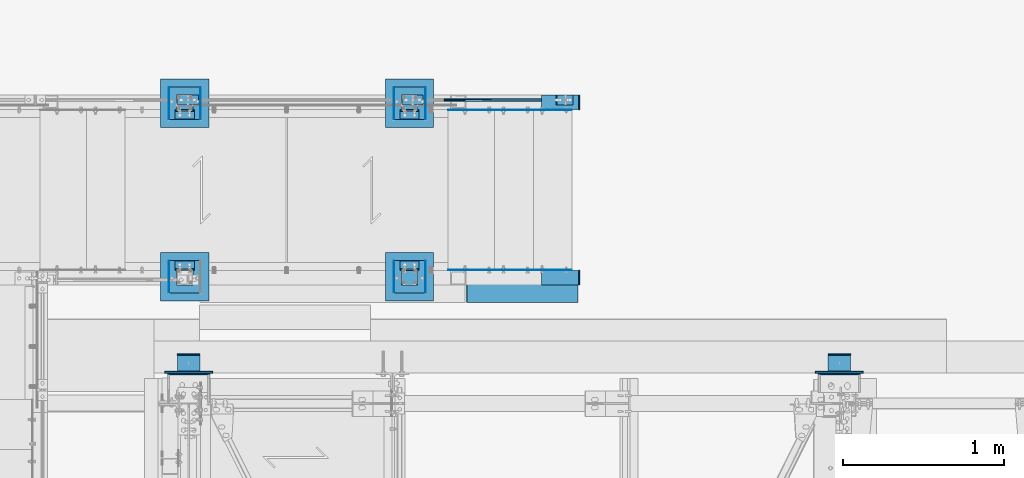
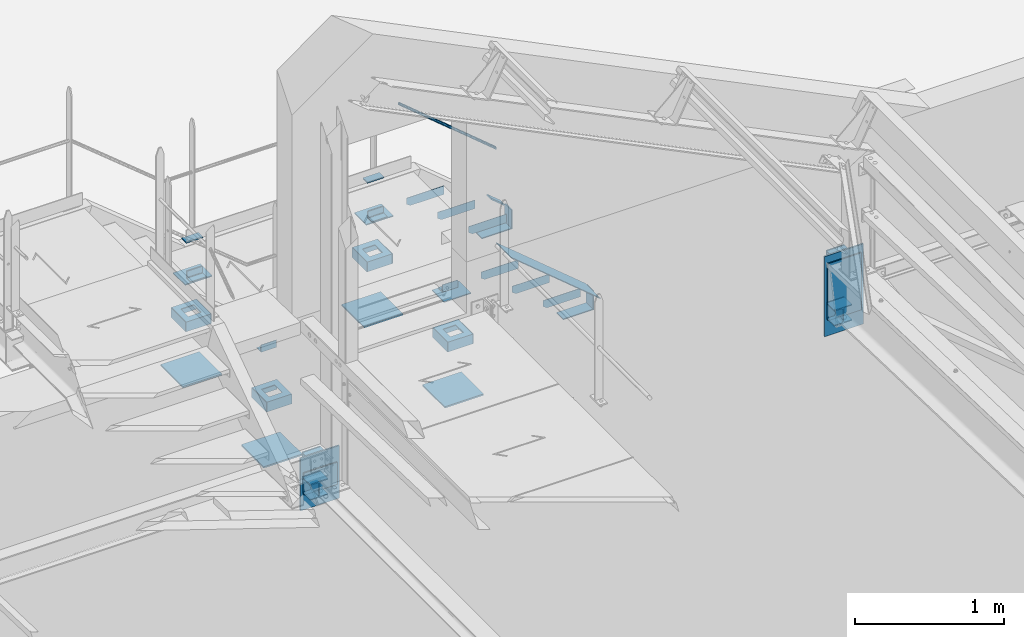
# One storey, part 115 of 362: 46 beams, 3 members, 19 elements without a shape of their own.
"""IFC2X3 building model written with IfcOpenShell, lengths in millimetres."""

from ifc_helpers import new_model, si_unit, frame, origin_with_axes, origin_2d_with_axis, place, context, subcontext, project, spatial, polyline, rectangle, hollow_circle, i_section, l_section, u_section, outline, extrude, boolean, clip, halfspace, material, type_object, element, aggregate, save


model = new_model("IFC2X3")

# Units and contexts
model_context = context("Model", 3, precision=1e-05, world=origin_with_axes())
body_context = subcontext(model_context, "Body", "Model", "MODEL_VIEW")
ifc_project = project(units=[si_unit("LENGTHUNIT", "METRE", prefix="MILLI"), si_unit("AREAUNIT", "SQUARE_METRE"), si_unit("VOLUMEUNIT", "CUBIC_METRE"), si_unit("MASSUNIT", "GRAM", prefix="KILO"), si_unit("TIMEUNIT", "SECOND"), si_unit("PLANEANGLEUNIT", "RADIAN"), si_unit("SOLIDANGLEUNIT", "STERADIAN"), si_unit("THERMODYNAMICTEMPERATUREUNIT", "DEGREE_CELSIUS"), si_unit("LUMINOUSINTENSITYUNIT", "LUMEN")], contexts=[model_context])

# Site, building, storey
site_placement = place(None, origin_with_axes())
site = spatial("IfcSite", under=ifc_project, at=site_placement, Name="Undefined", CompositionType="ELEMENT")
building_placement = place(site_placement, origin_with_axes())
building = spatial("IfcBuilding", under=site, at=building_placement, Name="Undefined", CompositionType="ELEMENT")
storey_placement = place(building_placement, origin_with_axes())
storey = spatial("IfcBuildingStorey", under=building, at=storey_placement, Name="Undefined", CompositionType="ELEMENT", Elevation=0.0)

# Assembly, member
assembly_1_placement = place(storey_placement, origin_with_axes())
assembly_1 = element("IfcElementAssembly", 1, at=assembly_1_placement, inside=storey, Name="CACHE VIDE", AssemblyPlace="NOTDEFINED", PredefinedType="NOTDEFINED")
ifc_material_1 = material(Name="Undefined/S235-E24")
member_type_1 = type_object("IfcMemberType", Name="PL200*6", PredefinedType="NOTDEFINED")
member_1_placement = place(assembly_1_placement, frame((36702.1608014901, 15929.9998774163, 7532.9377228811), z_axis=(0.0, -1.0, 0.0), x_axis=(-0.768221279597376, 0.0, 0.640184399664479)))
member_1 = element("IfcMember", 2, at=member_1_placement, type_object=member_type_1, material=ifc_material_1, Name="CACHE VIDE", ObjectType="PL200*6", context=body_context, shape_type="SweptSolid", body=[
    extrude(rectangle(XDim=6.0, YDim=200.0, at=origin_2d_with_axis()), frame((900.000000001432, 9.99200722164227e-14, 0.0), z_axis=(-1.0, 0.0, 0.0), x_axis=(0.0, -1.0, 0.0)), (0.0, 0.0, 1.0), 900.0),
])
aggregate(assembly_1, [member_1])

# Assembly, beams, member
assembly_2_placement = place(storey_placement, origin_with_axes())
assembly_2 = element("IfcElementAssembly", 3, at=assembly_2_placement, inside=storey, Name="MAIN COURANTE", AssemblyPlace="NOTDEFINED", PredefinedType="NOTDEFINED")
beam_type_1 = type_object("IfcBeamType", Name="PL10*60", PredefinedType="NOTDEFINED")
beam_1_placement = place(assembly_2_placement, frame((35740.0061849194, 17089.9938659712, 8114.9999407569), z_axis=(0.0, 1.0, 0.0), x_axis=(-1.0, 0.0, 0.0)))
beam_1 = element("IfcBeam", 4, at=beam_1_placement, type_object=beam_type_1, material=ifc_material_1, Name="PLATINE", ObjectType="PL10*60", context=body_context, shape_type="SweptSolid", body=[
    extrude(rectangle(XDim=10.0, YDim=60.0, at=origin_2d_with_axis()), frame((130.0, 0.0, 0.0), z_axis=(-1.0, 0.0, 0.0), x_axis=(0.0, -1.0, 0.0)), (0.0, 0.0, 1.0), 130.0),
])
beam_2_placement = place(assembly_2_placement, frame((34340.0061849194, 17089.9938659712, 8114.9999407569), z_axis=(0.0, 1.0, 0.0), x_axis=(-1.0, 0.0, 0.0)))
beam_2 = element("IfcBeam", 5, at=beam_2_placement, type_object=beam_type_1, material=ifc_material_1, Name="PLATINE", ObjectType="PL10*60", context=body_context, shape_type="SweptSolid", body=[
    extrude(rectangle(XDim=10.0, YDim=60.0, at=origin_2d_with_axis()), frame((130.0, 0.0, 0.0), z_axis=(-1.0, 0.0, 0.0), x_axis=(0.0, -1.0, 0.0)), (0.0, 0.0, 1.0), 130.0),
])
member_type_2 = type_object("IfcMemberType", Name="TUBE-21.3*2", PredefinedType="NOTDEFINED")
member_2_placement = place(assembly_2_placement, frame((36625.0061849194, 17089.9898795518, 8025.73196061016), z_axis=(0.0, -1.0, 0.0), x_axis=(-0.768221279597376, 0.0, 0.640184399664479)))
member_2 = element("IfcMember", 6, at=member_2_placement, type_object=member_type_2, material=ifc_material_1, Name="LISSE", ObjectType="TUBE-21.3*2", context=body_context, shape_type="Clipping", body=[
    clip(clip(extrude(hollow_circle(Radius=10.64999962, WallThickness=2.0, at=origin_2d_with_axis()), frame((999.915375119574, 0.0, 0.0), z_axis=(-1.0, 0.0, 0.0), x_axis=(0.0, -1.0, 0.0)), (0.0, 0.0, 1.0), 1012.25), halfspace(frame((981.073731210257, -1.82259100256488e-07, -0.0039864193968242), z_axis=(-0.940271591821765, -0.340425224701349, 0.0), x_axis=(0.0, 0.0, -1.0)), True)), halfspace(frame((18.5934348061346, -14.5018748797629, -0.0039864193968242), z_axis=(-0.768221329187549, -0.640184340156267, 0.0), x_axis=(0.0, 0.0, -1.0)), False)),
])

# Assembly, beam
assembly_3_placement = place(storey_placement, origin_with_axes())
assembly_3 = element("IfcElementAssembly", 7, at=assembly_3_placement, inside=storey, AssemblyPlace="NOTDEFINED", PredefinedType="NOTDEFINED")
beam_type_2 = type_object("IfcBeamType", Name="PL12*300", PredefinedType="NOTDEFINED")
beam_3_placement = place(assembly_3_placement, frame((34405.0000000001, 15839.9999136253, 7056.0), z_axis=(0.0, 0.0, -1.0), x_axis=(-1.0, 0.0, 0.0)))
beam_3 = element("IfcBeam", 8, at=beam_3_placement, type_object=beam_type_2, material=ifc_material_1, Name="PLATINE", ObjectType="PL12*300", context=body_context, shape_type="SweptSolid", body=[
    extrude(outline(polyline([(0.0, 0.0), (300.0, 0.0), (300.0, 300.0), (0.0, 300.0), (0.0, 0.0)])), frame((0.0, 0.0, -6.0), z_axis=(0.0, 0.0, 1.0), x_axis=(1.0, 0.0, 0.0)), (0.0, 0.0, 1.0), 12.0),
])

assembly_4_placement = place(storey_placement, origin_with_axes())
assembly_4 = element("IfcElementAssembly", 9, at=assembly_4_placement, inside=storey, AssemblyPlace="NOTDEFINED", PredefinedType="NOTDEFINED")
beam_4_placement = place(assembly_4_placement, frame((35805.0000000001, 15839.9999136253, 7056.0), z_axis=(0.0, 0.0, -1.0), x_axis=(-1.0, 0.0, 0.0)))
beam_4 = element("IfcBeam", 10, at=beam_4_placement, type_object=beam_type_2, material=ifc_material_1, Name="PLATINE", ObjectType="PL12*300", context=body_context, shape_type="SweptSolid", body=[
    extrude(outline(polyline([(0.0, 0.0), (300.0, 0.0), (300.0, 300.0), (0.0, 300.0), (0.0, 0.0)])), frame((0.0, 0.0, -6.0), z_axis=(0.0, 0.0, 1.0), x_axis=(1.0, 0.0, 0.0)), (0.0, 0.0, 1.0), 12.0),
])

assembly_5_placement = place(storey_placement, origin_with_axes())
assembly_5 = element("IfcElementAssembly", 11, at=assembly_5_placement, inside=storey, AssemblyPlace="NOTDEFINED", PredefinedType="NOTDEFINED")
beam_5_placement = place(assembly_5_placement, frame((34405.0000000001, 17219.9996684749, 7056.0), z_axis=(0.0, 0.0, 1.0), x_axis=(-1.0, 0.0, 0.0)))
beam_5 = element("IfcBeam", 12, at=beam_5_placement, type_object=beam_type_2, material=ifc_material_1, Name="PLATINE", ObjectType="PL12*300", context=body_context, shape_type="SweptSolid", body=[
    extrude(outline(polyline([(0.0, 0.0), (300.0, 0.0), (300.0, 300.0), (0.0, 300.0), (0.0, 0.0)])), frame((0.0, 0.0, -6.0), z_axis=(0.0, 0.0, 1.0), x_axis=(1.0, 0.0, 0.0)), (0.0, 0.0, 1.0), 12.0),
])

assembly_6_placement = place(storey_placement, origin_with_axes())
assembly_6 = element("IfcElementAssembly", 13, at=assembly_6_placement, inside=storey, AssemblyPlace="NOTDEFINED", PredefinedType="NOTDEFINED")
beam_6_placement = place(assembly_6_placement, frame((35805.0000000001, 17219.9996684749, 7056.0), z_axis=(0.0, 0.0, 1.0), x_axis=(-1.0, 0.0, 0.0)))
beam_6 = element("IfcBeam", 14, at=beam_6_placement, type_object=beam_type_2, material=ifc_material_1, Name="PLATINE", ObjectType="PL12*300", context=body_context, shape_type="SweptSolid", body=[
    extrude(outline(polyline([(0.0, 0.0), (300.0, 0.0), (300.0, 300.0), (0.0, 300.0), (0.0, 0.0)])), frame((0.0, 0.0, -6.0), z_axis=(0.0, 0.0, 1.0), x_axis=(1.0, 0.0, 0.0)), (0.0, 0.0, 1.0), 12.0),
])

assembly_7_placement = place(storey_placement, origin_with_axes())
assembly_7 = element("IfcElementAssembly", 15, at=assembly_7_placement, inside=storey, AssemblyPlace="NOTDEFINED", PredefinedType="NOTDEFINED")
beam_7_placement = place(assembly_7_placement, frame((34280.0000000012, 15395.9999999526, 7394.99830350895), z_axis=(-1.0, 0.0, 0.0), x_axis=(0.0, 0.0, -1.0)))
beam_7 = element("IfcBeam", 16, at=beam_7_placement, type_object=beam_type_2, material=ifc_material_1, Name="PRESCELLEMENT", ObjectType="PL12*300", context=body_context, shape_type="SweptSolid", body=[
    extrude(rectangle(XDim=12.0, YDim=300.0, at=origin_2d_with_axis()), frame((429.999999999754, 0.0, 0.0), z_axis=(-1.0, 0.0, 0.0), x_axis=(0.0, -1.0, 0.0)), (0.0, 0.0, 1.0), 430.0),
])

assembly_8_placement = place(storey_placement, origin_with_axes())
assembly_8 = element("IfcElementAssembly", 17, at=assembly_8_placement, inside=storey, AssemblyPlace="NOTDEFINED", PredefinedType="NOTDEFINED")
beam_8_placement = place(assembly_8_placement, frame((38330.0000000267, 15396.0000001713, 7624.99830350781), z_axis=(-1.0, 0.0, 0.0), x_axis=(0.0, 0.0, -1.0)))
beam_8 = element("IfcBeam", 18, at=beam_8_placement, type_object=beam_type_2, material=ifc_material_1, Name="PRESCELLEMENT", ObjectType="PL12*300", context=body_context, shape_type="SweptSolid", body=[
    extrude(rectangle(XDim=12.0, YDim=300.0, at=origin_2d_with_axis()), frame((654.999999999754, 0.0, 0.0), z_axis=(-1.0, 0.0, 0.0), x_axis=(0.0, -1.0, 0.0)), (0.0, 0.0, 1.0), 655.0),
])

# Member
member_type_3 = type_object("IfcMemberType", Name="PL10*60", PredefinedType="NOTDEFINED")
member_3_placement = place(assembly_2_placement, frame((36667.8985396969, 17089.9938659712, 7564.09302426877), z_axis=(0.0, 1.0, 0.0), x_axis=(-0.768221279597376, 0.0, 0.640184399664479)))
member_3 = element("IfcMember", 19, at=member_3_placement, type_object=member_type_3, material=ifc_material_1, Name="PLATINE", ObjectType="PL10*60", context=body_context, shape_type="SweptSolid", body=[
    extrude(rectangle(XDim=10.0, YDim=60.0, at=origin_2d_with_axis()), frame((130.0, 0.0, 0.0), z_axis=(-1.0, 0.0, 0.0), x_axis=(0.0, -1.0, 0.0)), (0.0, 0.0, 1.0), 130.0),
])

aggregate(assembly_2, [member_3, beam_1, beam_2, member_2])

# Beam
beam_type_3 = type_object("IfcBeamType", Name="PL8*160", PredefinedType="NOTDEFINED")
beam_9_placement = place(assembly_4_placement, frame((35760.0000000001, 15930.0004325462, 7846.00001160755), z_axis=(0.0, 0.0, -1.0), x_axis=(-1.0, 0.0, 0.0)))
beam_9 = element("IfcBeam", 20, at=beam_9_placement, type_object=beam_type_3, material=ifc_material_1, Name="PLATINE", ObjectType="PL8*160", context=body_context, shape_type="SweptSolid", body=[
    extrude(outline(polyline([(0.0, 0.0), (210.0, 0.0), (210.0, 159.999481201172), (0.0, 159.999481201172), (0.0, 0.0)])), frame((0.0, 0.0, -4.0), z_axis=(0.0, 0.0, 1.0), x_axis=(1.0, 0.0, 0.0)), (0.0, 0.0, 1.0), 8.0),
])

beam_10_placement = place(assembly_5_placement, frame((34360.0000000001, 17129.9991495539, 7846.00001160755), z_axis=(0.0, 0.0, 1.0), x_axis=(-1.0, 0.0, 0.0)))
beam_10 = element("IfcBeam", 21, at=beam_10_placement, type_object=beam_type_3, material=ifc_material_1, Name="PLATINE", ObjectType="PL8*160", context=body_context, shape_type="SweptSolid", body=[
    extrude(outline(polyline([(0.0, 0.0), (210.0, 0.0), (210.0, 159.999481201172), (0.0, 159.999481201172), (0.0, 0.0)])), frame((0.0, 0.0, -4.0), z_axis=(0.0, 0.0, 1.0), x_axis=(1.0, 0.0, 0.0)), (0.0, 0.0, 1.0), 8.0),
])

beam_11_placement = place(assembly_6_placement, frame((35760.0000000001, 17129.9991495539, 7846.00001160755), z_axis=(0.0, 0.0, 1.0), x_axis=(-1.0, 0.0, 0.0)))
beam_11 = element("IfcBeam", 22, at=beam_11_placement, type_object=beam_type_3, material=ifc_material_1, Name="PLATINE", ObjectType="PL8*160", context=body_context, shape_type="SweptSolid", body=[
    extrude(outline(polyline([(0.0, 0.0), (210.0, 0.0), (210.0, 159.999481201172), (0.0, 159.999481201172), (0.0, 0.0)])), frame((0.0, 0.0, -4.0), z_axis=(0.0, 0.0, 1.0), x_axis=(1.0, 0.0, 0.0)), (0.0, 0.0, 1.0), 8.0),
])

beam_type_4 = type_object("IfcBeamType", Name="PL4*80", PredefinedType="NOTDEFINED")
beam_12_placement = place(assembly_4_placement, frame((35753.0000000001, 16089.9999136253, 7500.0), z_axis=(0.0, 0.0, 1.0), x_axis=(0.0, -1.0, 0.0)))
beam_12 = element("IfcBeam", 23, at=beam_12_placement, type_object=beam_type_4, material=ifc_material_1, Name="BORD COLLERETTE", ObjectType="PL4*80", context=body_context, shape_type="SweptSolid", body=[
    extrude(rectangle(XDim=4.0, YDim=80.0, at=origin_2d_with_axis()), frame((200.0, 0.0, 0.0), z_axis=(-1.0, 0.0, 0.0), x_axis=(0.0, -1.0, 0.0)), (0.0, 0.0, 1.0), 200.0),
])

beam_13_placement = place(assembly_3_placement, frame((34157.0000000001, 16089.9999136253, 7500.0), z_axis=(0.0, 0.0, 1.0), x_axis=(0.0, -1.0, 0.0)))
beam_13 = element("IfcBeam", 24, at=beam_13_placement, type_object=beam_type_4, material=ifc_material_1, Name="BORD COLLERETTE", ObjectType="PL4*80", context=body_context, shape_type="SweptSolid", body=[
    extrude(rectangle(XDim=4.0, YDim=80.0, at=origin_2d_with_axis()), frame((200.0, 0.0, 0.0), z_axis=(-1.0, 0.0, 0.0), x_axis=(0.0, -1.0, 0.0)), (0.0, 0.0, 1.0), 200.0),
])

beam_14_placement = place(assembly_4_placement, frame((35557.0000000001, 16089.9999136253, 7500.0), z_axis=(0.0, 0.0, 1.0), x_axis=(0.0, -1.0, 0.0)))
beam_14 = element("IfcBeam", 25, at=beam_14_placement, type_object=beam_type_4, material=ifc_material_1, Name="BORD COLLERETTE", ObjectType="PL4*80", context=body_context, shape_type="SweptSolid", body=[
    extrude(rectangle(XDim=4.0, YDim=80.0, at=origin_2d_with_axis()), frame((200.0, 0.0, 0.0), z_axis=(-1.0, 0.0, 0.0), x_axis=(0.0, -1.0, 0.0)), (0.0, 0.0, 1.0), 200.0),
])

beam_15_placement = place(assembly_5_placement, frame((34353.0000000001, 16969.9996684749, 7500.0), z_axis=(0.0, 0.0, 1.0), x_axis=(0.0, 1.0, 0.0)))
beam_15 = element("IfcBeam", 26, at=beam_15_placement, type_object=beam_type_4, material=ifc_material_1, Name="BORD COLLERETTE", ObjectType="PL4*80", context=body_context, shape_type="SweptSolid", body=[
    extrude(rectangle(XDim=4.0, YDim=80.0, at=origin_2d_with_axis()), frame((200.0, 0.0, 0.0), z_axis=(-1.0, 0.0, 0.0), x_axis=(0.0, -1.0, 0.0)), (0.0, 0.0, 1.0), 200.0),
])

beam_16_placement = place(assembly_6_placement, frame((35753.0000000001, 16969.9996684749, 7500.0), z_axis=(0.0, 0.0, 1.0), x_axis=(0.0, 1.0, 0.0)))
beam_16 = element("IfcBeam", 27, at=beam_16_placement, type_object=beam_type_4, material=ifc_material_1, Name="BORD COLLERETTE", ObjectType="PL4*80", context=body_context, shape_type="SweptSolid", body=[
    extrude(rectangle(XDim=4.0, YDim=80.0, at=origin_2d_with_axis()), frame((200.0, 0.0, 0.0), z_axis=(-1.0, 0.0, 0.0), x_axis=(0.0, -1.0, 0.0)), (0.0, 0.0, 1.0), 200.0),
])

beam_17_placement = place(assembly_5_placement, frame((34157.0000000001, 16969.9996684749, 7500.0), z_axis=(0.0, 0.0, 1.0), x_axis=(0.0, 1.0, 0.0)))
beam_17 = element("IfcBeam", 28, at=beam_17_placement, type_object=beam_type_4, material=ifc_material_1, Name="BORD COLLERETTE", ObjectType="PL4*80", context=body_context, shape_type="SweptSolid", body=[
    extrude(rectangle(XDim=4.0, YDim=80.0, at=origin_2d_with_axis()), frame((200.0, 0.0, 0.0), z_axis=(-1.0, 0.0, 0.0), x_axis=(0.0, -1.0, 0.0)), (0.0, 0.0, 1.0), 200.0),
])

beam_18_placement = place(assembly_6_placement, frame((35557.0000000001, 16969.9996684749, 7500.0), z_axis=(0.0, 0.0, 1.0), x_axis=(0.0, 1.0, 0.0)))
beam_18 = element("IfcBeam", 29, at=beam_18_placement, type_object=beam_type_4, material=ifc_material_1, Name="BORD COLLERETTE", ObjectType="PL4*80", context=body_context, shape_type="SweptSolid", body=[
    extrude(rectangle(XDim=4.0, YDim=80.0, at=origin_2d_with_axis()), frame((200.0, 0.0, 0.0), z_axis=(-1.0, 0.0, 0.0), x_axis=(0.0, -1.0, 0.0)), (0.0, 0.0, 1.0), 200.0),
])

beam_type_5 = type_object("IfcBeamType", Name="UPF-200*80*4", PredefinedType="NOTDEFINED")
beam_19_placement = place(assembly_3_placement, frame((34351.0000000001, 15989.9999136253, 7500.0), z_axis=(0.0, 1.0, 0.0), x_axis=(-1.0, 0.0, 0.0)))
beam_19 = element("IfcBeam", 30, at=beam_19_placement, type_object=beam_type_5, material=ifc_material_1, Name="COLLERETTE", ObjectType="UPF-200*80*4", context=body_context, shape_type="CSG", body=[
    boolean("DIFFERENCE", extrude(u_section(Depth=200.0, FlangeWidth=80.0, WebThickness=4.0, FlangeThickness=4.0, at=origin_2d_with_axis()), frame((192.0, 0.0, 0.0), z_axis=(-1.0, 0.0, 0.0), x_axis=(0.0, -1.0, 0.0)), (0.0, 0.0, 1.0), 192.0), extrude(outline(polyline([(0.0, 0.0), (101.0, 0.0), (101.0, 101.0), (0.0, 101.0), (0.0, 0.0)])), frame((146.5, -42.5, 50.5), z_axis=(0.0, 1.0, 0.0), x_axis=(0.0, 0.0, -1.0)), (0.0, 0.0, 1.0), 85.0)),
])

aggregate(assembly_3, [beam_13, beam_19, beam_3])

beam_20_placement = place(assembly_4_placement, frame((35751.0000000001, 15989.9999136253, 7500.0), z_axis=(0.0, 1.0, 0.0), x_axis=(-1.0, 0.0, 0.0)))
beam_20 = element("IfcBeam", 31, at=beam_20_placement, type_object=beam_type_5, material=ifc_material_1, Name="COLLERETTE", ObjectType="UPF-200*80*4", context=body_context, shape_type="CSG", body=[
    boolean("DIFFERENCE", extrude(u_section(Depth=200.0, FlangeWidth=80.0, WebThickness=4.0, FlangeThickness=4.0, at=origin_2d_with_axis()), frame((192.0, 0.0, 0.0), z_axis=(-1.0, 0.0, 0.0), x_axis=(0.0, -1.0, 0.0)), (0.0, 0.0, 1.0), 192.0), extrude(outline(polyline([(0.0, 0.0), (101.0, 0.0), (101.0, 101.0), (0.0, 101.0), (0.0, 0.0)])), frame((146.5, -42.5, 50.5), z_axis=(0.0, 1.0, 0.0), x_axis=(0.0, 0.0, -1.0)), (0.0, 0.0, 1.0), 85.0)),
])

aggregate(assembly_4, [beam_12, beam_9, beam_14, beam_20, beam_4])

beam_21_placement = place(assembly_5_placement, frame((34159.0000000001, 17069.9996684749, 7500.0), z_axis=(0.0, -1.0, 0.0), x_axis=(1.0, 0.0, 0.0)))
beam_21 = element("IfcBeam", 32, at=beam_21_placement, type_object=beam_type_5, material=ifc_material_1, Name="COLLERETTE", ObjectType="UPF-200*80*4", context=body_context, shape_type="CSG", body=[
    boolean("DIFFERENCE", extrude(u_section(Depth=200.0, FlangeWidth=80.0, WebThickness=4.0, FlangeThickness=4.0, at=origin_2d_with_axis()), frame((192.0, 0.0, 0.0), z_axis=(-1.0, 0.0, 0.0), x_axis=(0.0, -1.0, 0.0)), (0.0, 0.0, 1.0), 192.0), extrude(outline(polyline([(0.0, 0.0), (101.0, 0.0), (101.0, 101.0), (0.0, 101.0), (0.0, 0.0)])), frame((45.5, -42.5, -50.5), z_axis=(0.0, 1.0, 0.0), x_axis=(0.0, 0.0, 1.0)), (0.0, 0.0, 1.0), 85.0)),
])

aggregate(assembly_5, [beam_10, beam_15, beam_17, beam_21, beam_5])

beam_22_placement = place(assembly_6_placement, frame((35559.0000000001, 17069.9996684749, 7500.0), z_axis=(0.0, -1.0, 0.0), x_axis=(1.0, 0.0, 0.0)))
beam_22 = element("IfcBeam", 33, at=beam_22_placement, type_object=beam_type_5, material=ifc_material_1, Name="COLLERETTE", ObjectType="UPF-200*80*4", context=body_context, shape_type="CSG", body=[
    boolean("DIFFERENCE", extrude(u_section(Depth=200.0, FlangeWidth=80.0, WebThickness=4.0, FlangeThickness=4.0, at=origin_2d_with_axis()), frame((192.0, 0.0, 0.0), z_axis=(-1.0, 0.0, 0.0), x_axis=(0.0, -1.0, 0.0)), (0.0, 0.0, 1.0), 192.0), extrude(outline(polyline([(0.0, 0.0), (101.0, 0.0), (101.0, 101.0), (0.0, 101.0), (0.0, 0.0)])), frame((45.5, -42.5, -50.5), z_axis=(0.0, 1.0, 0.0), x_axis=(0.0, 0.0, 1.0)), (0.0, 0.0, 1.0), 85.0)),
])

aggregate(assembly_6, [beam_16, beam_11, beam_18, beam_22, beam_6])

# Assembly, beams
assembly_9_placement = place(storey_placement, origin_with_axes())
assembly_9 = element("IfcElementAssembly", 34, at=assembly_9_placement, inside=storey, AssemblyPlace="NOTDEFINED", PredefinedType="NOTDEFINED")
beam_type_6 = type_object("IfcBeamType", Name="PL8*90", PredefinedType="NOTDEFINED")
beam_23_placement = place(assembly_9_placement, frame((36714.9999902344, 15984.9996684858, 7373.99994075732), z_axis=(0.0, -1.0, 0.0), x_axis=(-1.0, 0.0, 0.0)))
beam_23 = element("IfcBeam", 35, at=beam_23_placement, type_object=beam_type_6, material=ifc_material_1, Name="PLAT LIMON", ObjectType="PL8*90", context=body_context, shape_type="SweptSolid", body=[
    extrude(rectangle(XDim=8.0, YDim=90.0, at=origin_2d_with_axis()), frame((237.732983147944, 0.0, 0.0), z_axis=(-1.0, 0.0, 0.0), x_axis=(0.0, -1.0, 0.0)), (0.0, 0.0, 1.0), 237.73),
])
beam_24_placement = place(assembly_9_placement, frame((36710.9999902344, 15984.9996684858, 7524.9999407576), z_axis=(0.0, -1.0, 0.0), x_axis=(0.0, 0.0, -1.0)))
beam_24 = element("IfcBeam", 36, at=beam_24_placement, type_object=beam_type_6, material=ifc_material_1, Name="PLAT LIMON", ObjectType="PL8*90", context=body_context, shape_type="SweptSolid", body=[
    extrude(rectangle(XDim=8.0, YDim=90.0, at=origin_2d_with_axis()), frame((147.00000000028, 0.0, 0.0), z_axis=(-1.0, 0.0, 0.0), x_axis=(0.0, -1.0, 0.0)), (0.0, 0.0, 1.0), 147.0),
])
aggregate(assembly_9, [beam_23, beam_24])

assembly_10_placement = place(storey_placement, origin_with_axes())
assembly_10 = element("IfcElementAssembly", 37, at=assembly_10_placement, inside=storey, AssemblyPlace="NOTDEFINED", PredefinedType="NOTDEFINED")
beam_25_placement = place(assembly_10_placement, frame((36714.9999902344, 17074.9996684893, 7373.99994075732), z_axis=(0.0, 1.0, 0.0), x_axis=(-1.0, 0.0, 0.0)))
beam_25 = element("IfcBeam", 38, at=beam_25_placement, type_object=beam_type_6, material=ifc_material_1, Name="PLAT LIMON", ObjectType="PL8*90", context=body_context, shape_type="SweptSolid", body=[
    extrude(rectangle(XDim=8.0, YDim=90.0, at=origin_2d_with_axis()), frame((237.732983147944, 0.0, 0.0), z_axis=(-1.0, 0.0, 0.0), x_axis=(0.0, -1.0, 0.0)), (0.0, 0.0, 1.0), 237.73),
])
beam_26_placement = place(assembly_10_placement, frame((36710.9999902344, 17074.9996684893, 7524.9999407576), z_axis=(0.0, 1.0, 0.0), x_axis=(0.0, 0.0, -1.0)))
beam_26 = element("IfcBeam", 39, at=beam_26_placement, type_object=beam_type_6, material=ifc_material_1, Name="PLAT LIMON", ObjectType="PL8*90", context=body_context, shape_type="SweptSolid", body=[
    extrude(rectangle(XDim=8.0, YDim=90.0, at=origin_2d_with_axis()), frame((147.00000000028, 0.0, 0.0), z_axis=(-1.0, 0.0, 0.0), x_axis=(0.0, -1.0, 0.0)), (0.0, 0.0, 1.0), 147.0),
])
aggregate(assembly_10, [beam_25, beam_26])

assembly_11_placement = place(storey_placement, origin_with_axes())
assembly_11 = element("IfcElementAssembly", 40, at=assembly_11_placement, inside=storey, Name="MARCHE", AssemblyPlace="NOTDEFINED", PredefinedType="NOTDEFINED")
beam_type_7 = type_object("IfcBeamType", Name="TOLE3*70", PredefinedType="NOTDEFINED")
beam_27_placement = place(assembly_11_placement, frame((36184.9999902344, 17028.4999136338, 7909.9999407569), z_axis=(0.0, 1.0, 0.0), x_axis=(0.0, 0.0, -1.0)))
beam_27 = element("IfcBeam", 41, at=beam_27_placement, type_object=beam_type_7, material=ifc_material_1, Name="PLAT MARCHE", ObjectType="TOLE3*70", context=body_context, shape_type="SweptSolid", body=[
    extrude(outline(polyline([(0.0, 0.0), (70.0, 0.0), (70.0, 260.0), (50.0, 290.0), (0.0, 290.0), (0.0, 0.0)])), frame((0.0, 0.0, -1.5), z_axis=(0.0, 0.0, 1.0), x_axis=(1.0, 0.0, 0.0)), (0.0, 0.0, 1.0), 3.0),
])
beam_28_placement = place(assembly_11_placement, frame((36184.9999902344, 16031.4996684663, 7909.9999407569), z_axis=(0.0, 1.0, 0.0), x_axis=(0.0, 0.0, -1.0)))
beam_28 = element("IfcBeam", 42, at=beam_28_placement, type_object=beam_type_7, material=ifc_material_1, Name="PLAT MARCHE", ObjectType="TOLE3*70", context=body_context, shape_type="SweptSolid", body=[
    extrude(outline(polyline([(0.0, 0.0), (70.0, 0.0), (70.0, 260.0), (50.0, 290.0), (0.0, 290.0), (0.0, 0.0)])), frame((0.0, 0.0, -1.5), z_axis=(0.0, 0.0, 1.0), x_axis=(1.0, 0.0, 0.0)), (0.0, 0.0, 1.0), 3.0),
])
aggregate(assembly_11, [beam_27, beam_28])

assembly_12_placement = place(storey_placement, origin_with_axes())
assembly_12 = element("IfcElementAssembly", 43, at=assembly_12_placement, inside=storey, Name="MARCHE", AssemblyPlace="NOTDEFINED", PredefinedType="NOTDEFINED")
beam_29_placement = place(assembly_12_placement, frame((36424.9999902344, 17028.4999136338, 7710.0), z_axis=(0.0, 1.0, 0.0), x_axis=(0.0, 0.0, -1.0)))
beam_29 = element("IfcBeam", 44, at=beam_29_placement, type_object=beam_type_7, material=ifc_material_1, Name="PLAT MARCHE", ObjectType="TOLE3*70", context=body_context, shape_type="SweptSolid", body=[
    extrude(outline(polyline([(0.0, 0.0), (70.0, 0.0), (70.0, 260.0), (50.0, 290.0), (0.0, 290.0), (0.0, 0.0)])), frame((0.0, 0.0, -1.5), z_axis=(0.0, 0.0, 1.0), x_axis=(1.0, 0.0, 0.0)), (0.0, 0.0, 1.0), 3.0),
])
beam_30_placement = place(assembly_12_placement, frame((36424.9999902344, 16031.4996684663, 7710.0), z_axis=(0.0, 1.0, 0.0), x_axis=(0.0, 0.0, -1.0)))
beam_30 = element("IfcBeam", 45, at=beam_30_placement, type_object=beam_type_7, material=ifc_material_1, Name="PLAT MARCHE", ObjectType="TOLE3*70", context=body_context, shape_type="SweptSolid", body=[
    extrude(outline(polyline([(0.0, 0.0), (70.0, 0.0), (70.0, 260.0), (50.0, 290.0), (0.0, 290.0), (0.0, 0.0)])), frame((0.0, 0.0, -1.5), z_axis=(0.0, 0.0, 1.0), x_axis=(1.0, 0.0, 0.0)), (0.0, 0.0, 1.0), 3.0),
])
aggregate(assembly_12, [beam_29, beam_30])

assembly_13_placement = place(storey_placement, origin_with_axes())
assembly_13 = element("IfcElementAssembly", 46, at=assembly_13_placement, inside=storey, Name="MARCHE", AssemblyPlace="NOTDEFINED", PredefinedType="NOTDEFINED")
beam_31_placement = place(assembly_13_placement, frame((36664.9999902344, 17028.4999136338, 7510.0), z_axis=(0.0, 1.0, 0.0), x_axis=(0.0, 0.0, -1.0)))
beam_31 = element("IfcBeam", 47, at=beam_31_placement, type_object=beam_type_7, material=ifc_material_1, Name="PLAT MARCHE", ObjectType="TOLE3*70", context=body_context, shape_type="SweptSolid", body=[
    extrude(outline(polyline([(0.0, 0.0), (70.0, 0.0), (70.0, 260.0), (50.0, 290.0), (0.0, 290.0), (0.0, 0.0)])), frame((0.0, 0.0, -1.5), z_axis=(0.0, 0.0, 1.0), x_axis=(1.0, 0.0, 0.0)), (0.0, 0.0, 1.0), 3.0),
])
beam_32_placement = place(assembly_13_placement, frame((36664.9999902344, 16031.4996684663, 7510.0), z_axis=(0.0, 1.0, 0.0), x_axis=(0.0, 0.0, -1.0)))
beam_32 = element("IfcBeam", 48, at=beam_32_placement, type_object=beam_type_7, material=ifc_material_1, Name="PLAT MARCHE", ObjectType="TOLE3*70", context=body_context, shape_type="SweptSolid", body=[
    extrude(outline(polyline([(0.0, 0.0), (70.0, 0.0), (70.0, 260.0), (50.0, 290.0), (0.0, 290.0), (0.0, 0.0)])), frame((0.0, 0.0, -1.5), z_axis=(0.0, 0.0, 1.0), x_axis=(1.0, 0.0, 0.0)), (0.0, 0.0, 1.0), 3.0),
])
aggregate(assembly_13, [beam_31, beam_32])

# Assembly, beam
assembly_14_placement = place(storey_placement, origin_with_axes())
assembly_14 = element("IfcElementAssembly", 49, at=assembly_14_placement, inside=storey, AssemblyPlace="NOTDEFINED", PredefinedType="NOTDEFINED")
beam_type_8 = type_object("IfcBeamType", Name="L60*6", PredefinedType="NOTDEFINED")
beam_33_placement = place(assembly_14_placement, frame((34315.0000000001, 16059.9999136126, 7879.9999407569), z_axis=(0.0, 0.0, 1.0), x_axis=(-1.0, 0.0, 0.0)))
beam_33 = element("IfcBeam", 50, at=beam_33_placement, type_object=beam_type_8, material=ifc_material_1, Name="ATTACHE", ObjectType="L60*6", context=body_context, shape_type="SweptSolid", body=[
    extrude(l_section(Depth=60.0, Width=60.0, Thickness=6.0, FilletRadius=8.0, EdgeRadius=4.0, at=origin_2d_with_axis()), frame((120.0, 0.0, 0.0), z_axis=(-1.0, 0.0, 0.0), x_axis=(0.0, -1.0, 0.0)), (0.0, 0.0, 1.0), 120.0),
])
aggregate(assembly_14, [beam_33])

assembly_15_placement = place(storey_placement, origin_with_axes())
assembly_15 = element("IfcElementAssembly", 51, at=assembly_15_placement, inside=storey, AssemblyPlace="NOTDEFINED", PredefinedType="NOTDEFINED")
beam_34_placement = place(assembly_15_placement, frame((35715.0000000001, 16059.9999136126, 7879.9999407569), z_axis=(0.0, 0.0, 1.0), x_axis=(-1.0, 0.0, 0.0)))
beam_34 = element("IfcBeam", 52, at=beam_34_placement, type_object=beam_type_8, material=ifc_material_1, Name="ATTACHE", ObjectType="L60*6", context=body_context, shape_type="SweptSolid", body=[
    extrude(l_section(Depth=60.0, Width=60.0, Thickness=6.0, FilletRadius=8.0, EdgeRadius=4.0, at=origin_2d_with_axis()), frame((120.0, 0.0, 0.0), z_axis=(-1.0, 0.0, 0.0), x_axis=(0.0, -1.0, 0.0)), (0.0, 0.0, 1.0), 120.0),
])
aggregate(assembly_15, [beam_34])

assembly_16_placement = place(storey_placement, origin_with_axes())
assembly_16 = element("IfcElementAssembly", 53, at=assembly_16_placement, inside=storey, AssemblyPlace="NOTDEFINED", PredefinedType="NOTDEFINED")
beam_35_placement = place(assembly_16_placement, frame((34195.0000000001, 16999.9996684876, 7879.9999407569), z_axis=(0.0, 0.0, 1.0), x_axis=(1.0, 0.0, 0.0)))
beam_35 = element("IfcBeam", 54, at=beam_35_placement, type_object=beam_type_8, material=ifc_material_1, Name="ATTACHE", ObjectType="L60*6", context=body_context, shape_type="SweptSolid", body=[
    extrude(l_section(Depth=60.0, Width=60.0, Thickness=6.0, FilletRadius=8.0, EdgeRadius=4.0, at=origin_2d_with_axis()), frame((120.0, 0.0, 0.0), z_axis=(-1.0, 0.0, 0.0), x_axis=(0.0, -1.0, 0.0)), (0.0, 0.0, 1.0), 120.0),
])
aggregate(assembly_16, [beam_35])

assembly_17_placement = place(storey_placement, origin_with_axes())
assembly_17 = element("IfcElementAssembly", 55, at=assembly_17_placement, inside=storey, AssemblyPlace="NOTDEFINED", PredefinedType="NOTDEFINED")
beam_36_placement = place(assembly_17_placement, frame((35595.0000000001, 16999.9996684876, 7879.9999407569), z_axis=(0.0, 0.0, 1.0), x_axis=(1.0, 0.0, 0.0)))
beam_36 = element("IfcBeam", 56, at=beam_36_placement, type_object=beam_type_8, material=ifc_material_1, Name="ATTACHE", ObjectType="L60*6", context=body_context, shape_type="SweptSolid", body=[
    extrude(l_section(Depth=60.0, Width=60.0, Thickness=6.0, FilletRadius=8.0, EdgeRadius=4.0, at=origin_2d_with_axis()), frame((120.0, 0.0, 0.0), z_axis=(-1.0, 0.0, 0.0), x_axis=(0.0, -1.0, 0.0)), (0.0, 0.0, 1.0), 120.0),
])
aggregate(assembly_17, [beam_36])

# Beam
beam_type_9 = type_object("IfcBeamType", Name="PL10*140", PredefinedType="NOTDEFINED")
beam_37_placement = place(assembly_7_placement, frame((34280.0000000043, 15507.0000000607, 7146.49830350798), z_axis=(-1.0, 0.0, 0.0), x_axis=(0.0, 0.0, -1.0)))
beam_37 = element("IfcBeam", 57, at=beam_37_placement, type_object=beam_type_9, material=ifc_material_1, Name="PLAT", ObjectType="PL10*140", context=body_context, shape_type="SweptSolid", body=[
    extrude(rectangle(XDim=10.0, YDim=140.0, at=origin_2d_with_axis()), frame((132.999999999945, 0.0, 0.0), z_axis=(-1.0, 0.0, 0.0), x_axis=(0.0, -1.0, 0.0)), (0.0, 0.0, 1.0), 133.0),
])

beam_38_placement = place(assembly_7_placement, frame((34280.0000000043, 15507.0000000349, 7346.49830350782), z_axis=(-1.0, 0.0, 0.0), x_axis=(0.0, 0.0, -1.0)))
beam_38 = element("IfcBeam", 58, at=beam_38_placement, type_object=beam_type_9, material=ifc_material_1, Name="PLAT", ObjectType="PL10*140", context=body_context, shape_type="SweptSolid", body=[
    extrude(rectangle(XDim=10.0, YDim=140.0, at=origin_2d_with_axis()), frame((132.999999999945, 0.0, 0.0), z_axis=(-1.0, 0.0, 0.0), x_axis=(0.0, -1.0, 0.0)), (0.0, 0.0, 1.0), 133.0),
])

beam_39_placement = place(assembly_8_placement, frame((38330.0000000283, 15507.0000002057, 7151.49830350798), z_axis=(-1.0, 0.0, 0.0), x_axis=(0.0, 0.0, -1.0)))
beam_39 = element("IfcBeam", 59, at=beam_39_placement, type_object=beam_type_9, material=ifc_material_1, Name="PLAT", ObjectType="PL10*140", context=body_context, shape_type="SweptSolid", body=[
    extrude(rectangle(XDim=10.0, YDim=140.0, at=origin_2d_with_axis()), frame((132.999999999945, 0.0, 0.0), z_axis=(-1.0, 0.0, 0.0), x_axis=(0.0, -1.0, 0.0)), (0.0, 0.0, 1.0), 133.0),
])

beam_40_placement = place(assembly_8_placement, frame((38330.0000000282, 15507.0000002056, 7576.49830350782), z_axis=(-1.0, 0.0, 0.0), x_axis=(0.0, 0.0, -1.0)))
beam_40 = element("IfcBeam", 60, at=beam_40_placement, type_object=beam_type_9, material=ifc_material_1, Name="PLAT", ObjectType="PL10*140", context=body_context, shape_type="SweptSolid", body=[
    extrude(rectangle(XDim=10.0, YDim=140.0, at=origin_2d_with_axis()), frame((132.999999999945, 0.0, 0.0), z_axis=(-1.0, 0.0, 0.0), x_axis=(0.0, -1.0, 0.0)), (0.0, 0.0, 1.0), 133.0),
])

ifc_material_2 = material(Name="Undefined/S275-E28")
beam_type_10 = type_object("IfcBeamType", Name="HEA140", PredefinedType="NOTDEFINED")
beam_41_placement = place(assembly_7_placement, frame((34280.000000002, 15402.0000000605, 7079.99830350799), z_axis=(0.0, 0.0, 1.0), x_axis=(0.0, 1.0, 0.0)))
beam_41 = element("IfcBeam", 61, at=beam_41_placement, type_object=beam_type_10, material=ifc_material_2, Name="BECHE", ObjectType="HEA140", context=body_context, shape_type="SweptSolid", body=[
    extrude(i_section(OverallWidth=140.0, OverallDepth=133.0, WebThickness=5.5, FlangeThickness=8.5, FilletRadius=12.0, at=origin_2d_with_axis()), frame((99.9999999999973, -1.63709046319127e-11, 7.73070496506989e-12), z_axis=(-1.0, 0.0, 0.0), x_axis=(0.0, -1.0, 0.0)), (0.0, 0.0, 1.0), 100.0),
])

beam_42_placement = place(assembly_7_placement, frame((34280.0000000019, 15402.0000000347, 7279.99830350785), z_axis=(0.0, 0.0, 1.0), x_axis=(0.0, 1.0, 0.0)))
beam_42 = element("IfcBeam", 62, at=beam_42_placement, type_object=beam_type_10, material=ifc_material_2, Name="BECHE", ObjectType="HEA140", context=body_context, shape_type="SweptSolid", body=[
    extrude(i_section(OverallWidth=140.0, OverallDepth=133.0, WebThickness=5.5, FlangeThickness=8.5, FilletRadius=12.0, at=origin_2d_with_axis()), frame((99.9999999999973, -1.63709046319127e-11, 7.73070496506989e-12), z_axis=(-1.0, 0.0, 0.0), x_axis=(0.0, -1.0, 0.0)), (0.0, 0.0, 1.0), 100.0),
])

aggregate(assembly_7, [beam_37, beam_41, beam_38, beam_42, beam_7])

beam_43_placement = place(assembly_8_placement, frame((38330.0000000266, 15402.0000002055, 7084.99830350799), z_axis=(0.0, 0.0, 1.0), x_axis=(0.0, 1.0, 0.0)))
beam_43 = element("IfcBeam", 63, at=beam_43_placement, type_object=beam_type_10, material=ifc_material_2, Name="BECHE", ObjectType="HEA140", context=body_context, shape_type="SweptSolid", body=[
    extrude(i_section(OverallWidth=140.0, OverallDepth=133.0, WebThickness=5.5, FlangeThickness=8.5, FilletRadius=12.0, at=origin_2d_with_axis()), frame((99.9999999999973, -1.63709046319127e-11, 7.73070496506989e-12), z_axis=(-1.0, 0.0, 0.0), x_axis=(0.0, -1.0, 0.0)), (0.0, 0.0, 1.0), 100.0),
])

beam_44_placement = place(assembly_8_placement, frame((38330.0000000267, 15402.0000002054, 7509.99830350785), z_axis=(0.0, 0.0, 1.0), x_axis=(0.0, 1.0, 0.0)))
beam_44 = element("IfcBeam", 64, at=beam_44_placement, type_object=beam_type_10, material=ifc_material_2, Name="BECHE", ObjectType="HEA140", context=body_context, shape_type="SweptSolid", body=[
    extrude(i_section(OverallWidth=140.0, OverallDepth=133.0, WebThickness=5.5, FlangeThickness=8.5, FilletRadius=12.0, at=origin_2d_with_axis()), frame((99.9999999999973, -1.63709046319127e-11, 7.73070496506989e-12), z_axis=(-1.0, 0.0, 0.0), x_axis=(0.0, -1.0, 0.0)), (0.0, 0.0, 1.0), 100.0),
])

aggregate(assembly_8, [beam_39, beam_43, beam_40, beam_44, beam_8])

# Assembly, beam
assembly_18_placement = place(storey_placement, origin_with_axes())
assembly_18 = element("IfcElementAssembly", 65, at=assembly_18_placement, inside=storey, AssemblyPlace="NOTDEFINED", PredefinedType="NOTDEFINED")
beam_type_11 = type_object("IfcBeamType", Name="PL10*260", PredefinedType="NOTDEFINED")
beam_45_placement = place(assembly_18_placement, frame((34279.9999999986, 15385.0000003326, 7271.99914127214), z_axis=(-1.0, 0.0, 0.0), x_axis=(0.0, 0.0, -1.0)))
beam_45 = element("IfcBeam", 66, at=beam_45_placement, type_object=beam_type_11, material=ifc_material_1, Name="SABOT", ObjectType="PL10*260", context=body_context, shape_type="SweptSolid", body=[
    extrude(rectangle(XDim=10.0, YDim=260.0, at=origin_2d_with_axis()), frame((180.000836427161, 0.0, 0.0), z_axis=(-1.0, 0.0, 0.0), x_axis=(0.0, -1.0, 0.0)), (0.0, 0.0, 1.0), 180.0),
])
aggregate(assembly_18, [beam_45])

assembly_19_placement = place(storey_placement, origin_with_axes())
assembly_19 = element("IfcElementAssembly", 67, at=assembly_19_placement, inside=storey, AssemblyPlace="NOTDEFINED", PredefinedType="NOTDEFINED")
beam_46_placement = place(assembly_19_placement, frame((38330.0000000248, 15385.0000006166, 7564.99670315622), z_axis=(-1.0, 0.0, 0.0), x_axis=(0.0, 0.0, -1.0)))
beam_46 = element("IfcBeam", 68, at=beam_46_placement, type_object=beam_type_11, material=ifc_material_1, Name="SABOT", ObjectType="PL10*260", context=body_context, shape_type="SweptSolid", body=[
    extrude(rectangle(XDim=10.0, YDim=260.0, at=origin_2d_with_axis()), frame((464.999999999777, 0.0, 0.0), z_axis=(-1.0, 0.0, 0.0), x_axis=(0.0, -1.0, 0.0)), (0.0, 0.0, 1.0), 465.0),
])
aggregate(assembly_19, [beam_46])

save(model, "model.ifc")
